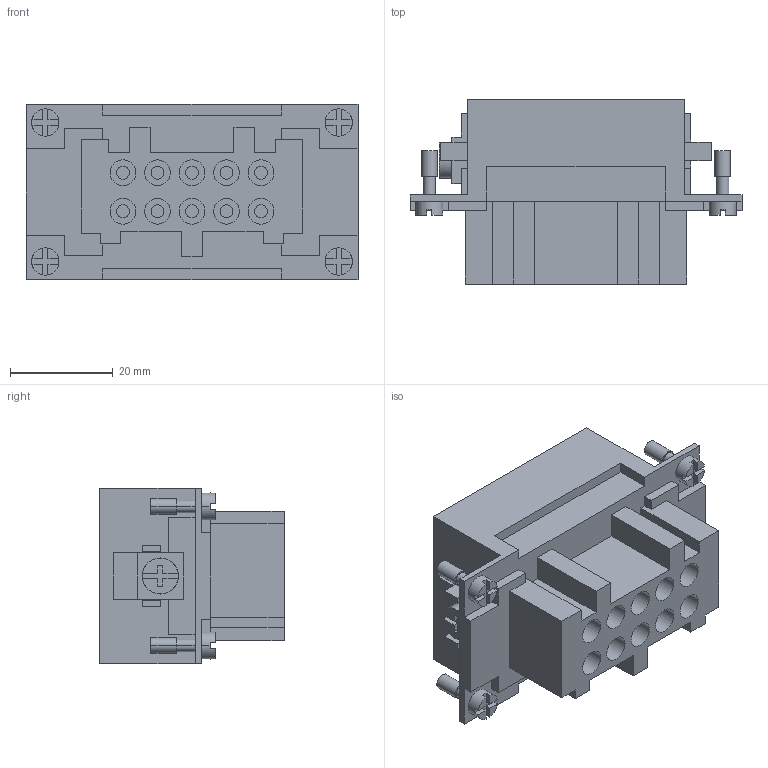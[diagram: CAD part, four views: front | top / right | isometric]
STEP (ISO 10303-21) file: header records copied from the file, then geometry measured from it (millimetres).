
FILE_DESCRIPTION (( 'STEP AP203' ), '1' );
FILE_NAME ('352255.STEP', '2025-06-26T13:48:22', ( '' ), ( '' ), 'SwSTEP 2.0', 'SolidWorks 2018', '' );
FILE_SCHEMA (( 'CONFIG_CONTROL_DESIGN' ));
Length unit declared in the file: millimetre
Products named in the file (1): 352255
Bounding box: 64.5 x 35.8 x 34 mm (x, y, z)
Volume: 39022.8 mm3; surface area: 14973.8 mm2
Topology: 1 solids, 1 shells, 412 faces, 1038 edges, 692 vertices
Faces by surface type: plane 324, cylinder 88
Entity records: 12371 total; most frequent: CARTESIAN_POINT 2143, ORIENTED_EDGE 2076, DIRECTION 2076, EDGE_CURVE 1038, LINE 826, VECTOR 826, VERTEX_POINT 692, AXIS2_PLACEMENT_3D 625
